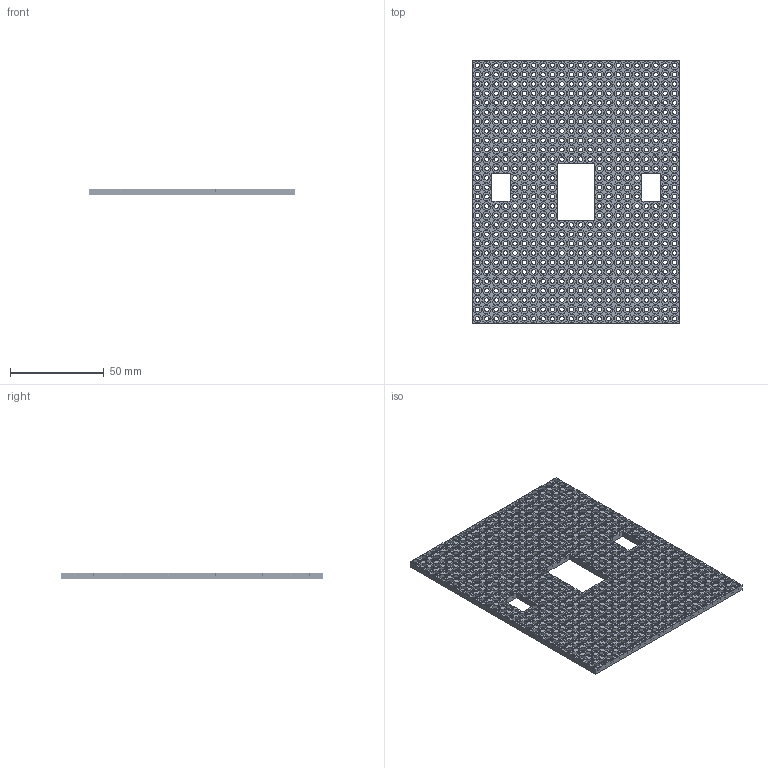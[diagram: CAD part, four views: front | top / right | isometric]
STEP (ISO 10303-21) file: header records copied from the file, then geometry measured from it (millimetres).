
FILE_DESCRIPTION(/* description */ (''),/* implementation_level */ '2;1');
FILE_NAME(/* name */ 'Chassis modular 110x140 v5.step',/* time_stamp */ '2025-10-09T05:58:48+02:00',/* author */ (''),/* organization */ (''),/* preprocessor_version */ 'ST-DEVELOPER v20.1',/* originating_system */ 'Autodesk Translation Framework v14.17.0.0',/* authorisation */ '');
FILE_SCHEMA (('AUTOMOTIVE_DESIGN { 1 0 10303 214 3 1 1 }'));
Products named in the file (2): Chassis modular 110x140; NutHoleM2
Assembly tree (1 placements, depth 2):
  Chassis modular 110x140
    NutHoleM2
Bounding box: 110 x 140 x 3.3 mm (x, y, z)
Volume: 27120.4 mm3; surface area: 48053.8 mm2
Topology: 1 solids, 1 shells, 4802 faces, 12870 edges, 8580 vertices
Faces by surface type: plane 4222, cylinder 580
Full cylindrical faces by diameter (mm): 2.4 x580
Entity records: 150239 total; most frequent: CARTESIAN_POINT 26255, ORIENTED_EDGE 25740, DIRECTION 23640, EDGE_CURVE 12870, LINE 11710, VECTOR 11710, VERTEX_POINT 8580, EDGE_LOOP 6478
